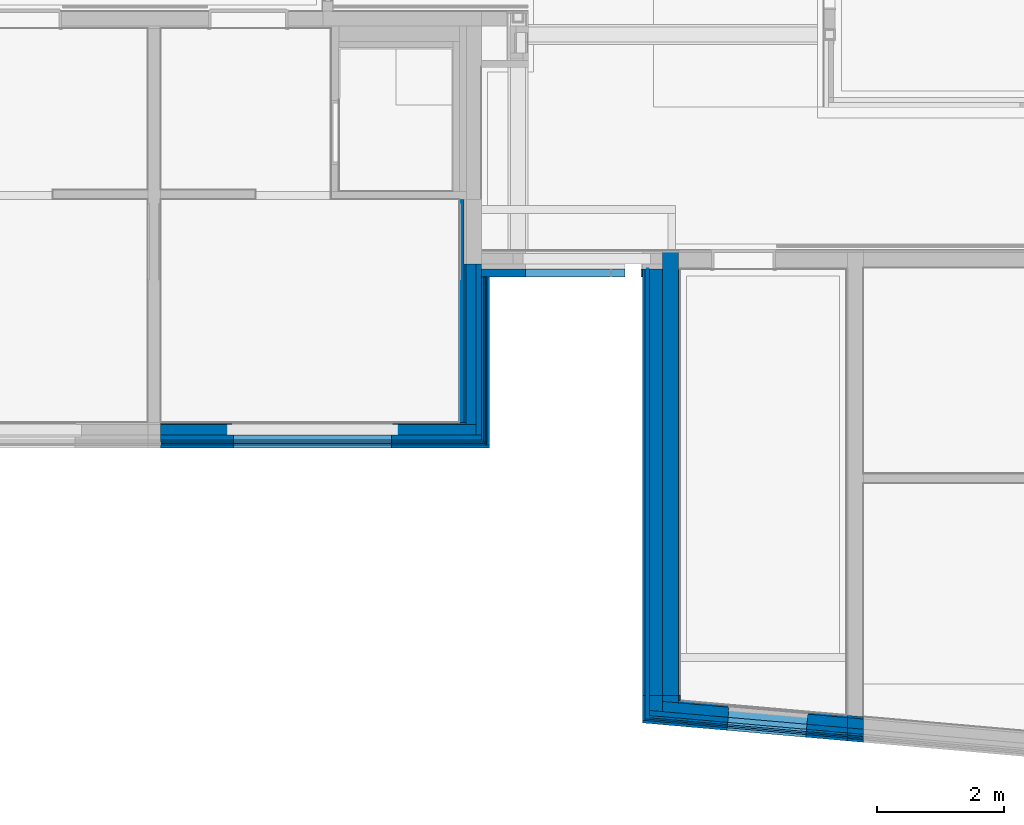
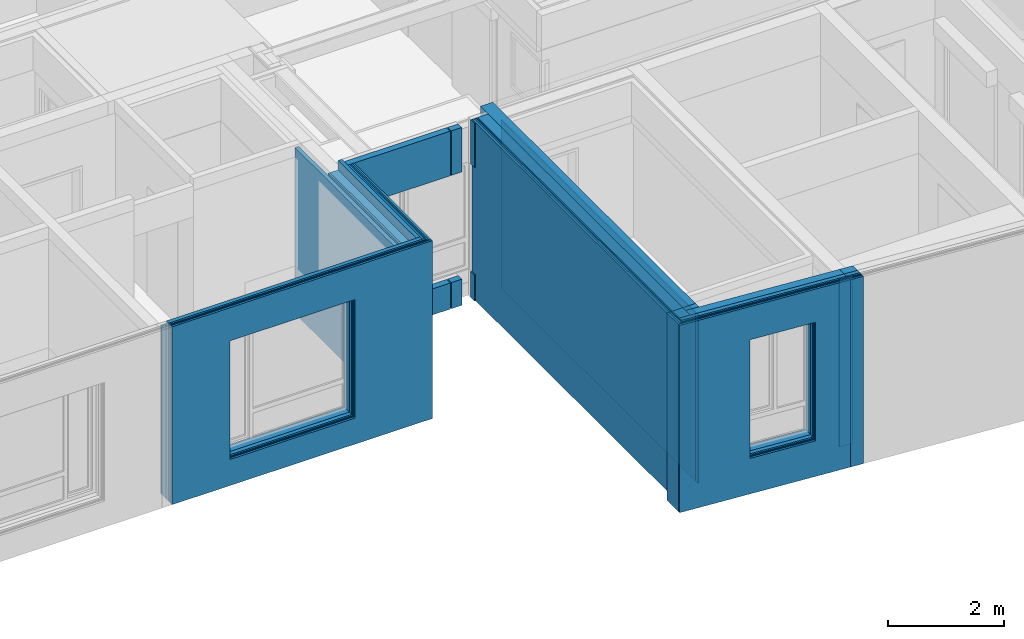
# One storey, part 19 of 222: 44 walls, 15 openings.
"""IFC4 building model written with IfcOpenShell, lengths in metres."""

from ifc_helpers import new_model, entity, si_unit, converted_unit, derived_unit, frame, frame_2d, origin, origin_with_axes, place, context, subcontext, project, spatial, polyline, rectangle, outline, extrude, clip, bounded_halfspace, material, element, save


model = new_model("IFC4")

# Units and contexts
model_context = context("Model", 3, precision=1e-05, world=origin())
body_context = subcontext(model_context, "Body", "Model", "MODEL_VIEW")
ifc_project = project(units=[si_unit("LENGTHUNIT", "METRE"), si_unit("AREAUNIT", "SQUARE_METRE"), si_unit("VOLUMEUNIT", "CUBIC_METRE"), si_unit("MASSUNIT", "GRAM", prefix="KILO"), converted_unit("PLANEANGLEUNIT", "DEGREE", entity("IfcPlaneAngleMeasure", 0.0174532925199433), si_unit("PLANEANGLEUNIT", "RADIAN"), dimensions=[0, 0, 0, 0, 0, 0, 0]), derived_unit("THERMALTRANSMITTANCEUNIT", [(si_unit("POWERUNIT", "WATT"), 1), (si_unit("THERMODYNAMICTEMPERATUREUNIT", "KELVIN"), -1), (si_unit("LENGTHUNIT", "METRE"), -2)]), derived_unit("VOLUMETRICFLOWRATEUNIT", [(si_unit("LENGTHUNIT", "METRE"), 3), (converted_unit("TIMEUNIT", "hour", entity("IfcTimeMeasure", 3600.0), si_unit("TIMEUNIT", "SECOND"), dimensions=[0, 0, 1, 0, 0, 0, 0]), -1), (si_unit("LENGTHUNIT", "METRE"), -1)])], contexts=[model_context])

# Site, building, storey
site_placement = place(None, origin())
site = spatial("IfcSite", under=ifc_project, at=site_placement, Name="Psychiatrie Neubau Wunstorf", CompositionType="ELEMENT")
building_placement = place(site_placement, origin())
building = spatial("IfcBuilding", under=site, at=building_placement, Name="Neubau H2 Stationsgebäude", CompositionType="ELEMENT")
storey_placement = place(building_placement, frame((0.0, 0.0, 3.6)))
storey = spatial("IfcBuildingStorey", under=building, at=storey_placement, Name="H2 Ebene +1", CompositionType="ELEMENT", Elevation=3.6)

# Walls
ifc_material_1 = material(Name="WA-LB")
wall_1_placement = place(storey_placement, frame((41.2, -6.81356006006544, 0.0), z_axis=(0.0, 0.0, 1.0), x_axis=(-0.996173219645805, 0.0874008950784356, 0.0)))
element("IfcWall", 1, at=wall_1_placement, inside=storey, material=ifc_material_1, Name="2x Gipsfaserplatte", context=body_context, shape_type="SweptSolid", body=[
    extrude(outline(polyline([(-0.245884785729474, -0.0578502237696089), (0.00507558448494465, -0.0578502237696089), (0.00191706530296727, -0.0218502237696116), (-0.249043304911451, -0.0218502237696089), (-0.245884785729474, -0.0578502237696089)])), frame((0.245884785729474, 0.0578502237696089, 0.0), z_axis=(0.0, 0.0, 1.0), x_axis=(1.0, 0.0, 0.0)), (0.0, 0.0, 1.0), 3.55),
])
ifc_material_2 = material(Name="WA-HD")
wall_2_placement = place(storey_placement, frame((41.2, -6.84969835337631, 0.0), z_axis=(0.0, 0.0, 1.0), x_axis=(-0.996173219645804, 0.0874008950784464, 0.0)))
element("IfcWall", 2, at=wall_2_placement, inside=storey, material=ifc_material_2, Name="Holzständer + Zwischendämmung", context=body_context, shape_type="SweptSolid", body=[
    extrude(outline(polyline([(-0.235005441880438, -0.181850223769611), (0.0159549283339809, -0.181850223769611), (0.00191706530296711, -0.0218502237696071), (-0.249043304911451, -0.0218502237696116), (-0.235005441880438, -0.181850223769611)])), frame((0.235005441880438, 0.181850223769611, 0.0), z_axis=(0.0, 0.0, 1.0), x_axis=(1.0, 0.0, 0.0)), (0.0, 0.0, 1.0), 3.75),
])
ifc_material_3 = material(Name="WA-DL")
wall_3_placement = place(storey_placement, frame((41.2, -7.01031299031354, -0.2), z_axis=(0.0, 0.0, 1.0), x_axis=(-0.996173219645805, 0.0874008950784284, 0.0)))
element("IfcWall", 3, at=wall_3_placement, inside=storey, material=ifc_material_3, Name="Staffel + Zwischendämmung", context=body_context, shape_type="SweptSolid", body=[
    extrude(outline(polyline([(-0.242024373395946, -0.101850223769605), (0.00893599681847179, -0.101850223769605), (0.00191706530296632, -0.0218502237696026), (-0.249043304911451, -0.0218502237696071), (-0.242024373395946, -0.101850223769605)])), frame((0.242024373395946, 0.101850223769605, 0.0), z_axis=(0.0, 0.0, 1.0), x_axis=(1.0, 0.0, 0.0)), (0.0, 0.0, 1.0), 3.95),
])
ifc_material_4 = material(Name="WA-LB")
wall_4_placement = place(storey_placement, frame((41.2, -7.09062030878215, -0.2), z_axis=(0.0, 0.0, 1.0), x_axis=(-0.996173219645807, 0.0874008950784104, 0.0)))
element("IfcWall", 4, at=wall_4_placement, inside=storey, material=ifc_material_4, context=body_context, shape_type="SweptSolid", body=[
    extrude(outline(polyline([(-0.245884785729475, -0.0578502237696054), (0.00507558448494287, -0.0578502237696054), (0.0019170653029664, -0.021850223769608), (-0.249043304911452, -0.0218502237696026), (-0.245884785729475, -0.0578502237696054)])), frame((0.245884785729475, 0.0578502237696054, 0.0), z_axis=(0.0, 0.0, 1.0), x_axis=(1.0, 0.0, 0.0)), (0.0, 0.0, 1.0), 3.95),
])
ifc_material_5 = material(Name="WA-KL")
wall_5_placement = place(storey_placement, frame((41.2, -7.12675860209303, -0.2), z_axis=(0.0, 0.0, 1.0), x_axis=(-0.996173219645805, 0.087400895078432, 0.0)))
element("IfcWall", 5, at=wall_5_placement, inside=storey, material=ifc_material_5, Name="Konterlattung", context=body_context, shape_type="SweptSolid", body=[
    extrude(outline(polyline([(-0.2469376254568, -0.0458502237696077), (0.00402274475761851, -0.0458502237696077), (0.00191706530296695, -0.0218502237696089), (-0.249043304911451, -0.021850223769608), (-0.2469376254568, -0.0458502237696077)])), frame((0.2469376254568, 0.0458502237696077, 0.0), z_axis=(0.0, 0.0, 1.0), x_axis=(1.0, 0.0, 0.0)), (0.0, 0.0, 1.0), 3.95),
])
ifc_material_6 = material(Name="WA-TL")
wall_6_placement = place(storey_placement, frame((41.2, -7.15085079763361, -0.2), z_axis=(0.0, 0.0, 1.0), x_axis=(-0.996173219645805, 0.0874008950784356, 0.0)))
element("IfcWall", 6, at=wall_6_placement, inside=storey, material=ifc_material_6, Name="Traglattung", context=body_context, shape_type="SweptSolid", body=[
    extrude(outline(polyline([(-0.246937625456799, -0.0458502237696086), (0.00402274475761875, -0.0458502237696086), (0.00191706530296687, -0.0218502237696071), (-0.249043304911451, -0.0218502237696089), (-0.246937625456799, -0.0458502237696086)])), frame((0.246937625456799, 0.0458502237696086, 0.0), z_axis=(0.0, 0.0, 1.0), x_axis=(1.0, 0.0, 0.0)), (0.0, 0.0, 1.0), 3.95),
])
ifc_material_7 = material(Name="WA-HS")
wall_7_placement = place(storey_placement, frame((41.2, -7.1749429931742, -0.2), z_axis=(0.0, 0.0, 1.0), x_axis=(-0.996173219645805, 0.0874008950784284, 0.0)))
element("IfcWall", 7, at=wall_7_placement, inside=storey, material=ifc_material_7, Name="Holzschindel", context=body_context, shape_type="SweptSolid", body=[
    extrude(outline(polyline([(-0.245358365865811, -0.0638502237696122), (0.00560200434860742, -0.0638502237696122), (0.00191706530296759, -0.0218502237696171), (-0.249043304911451, -0.0218502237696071), (-0.245358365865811, -0.0638502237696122)])), frame((0.245358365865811, 0.0638502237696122, 0.0), z_axis=(0.0, 0.0, 1.0), x_axis=(1.0, 0.0, 0.0)), (0.0, 0.0, 1.0), 3.95),
])

# Wall, opening
ifc_material_8 = material(Name="WA-LB")
wall_8_placement = place(storey_placement, frame((34.925, -2.16399999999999, 0.0), z_axis=(0.0, 0.0, 1.0), x_axis=(-1.0, 9.42481556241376e-17, 0.0)))
wall_8 = element("IfcWall", 8, at=wall_8_placement, inside=storey, material=ifc_material_8, context=body_context, shape_type="SweptSolid", body=[
    extrude(rectangle(XDim=4.825, YDim=0.036, at=frame_2d((2.4125, 0.018), x_axis=(1.0, 0.0))), origin_with_axes(), (0.0, 0.0, 1.0), 3.55),
])
opening_1_placement = place(wall_8_placement, frame((1.175, 0.0, 0.55), z_axis=(0.0, 1.0, 0.0), x_axis=(0.0, 0.0, 1.0)))
element("IfcOpeningElement", 9, at=opening_1_placement, cuts=wall_8, Name="Fensteröffnung", ObjectType="Opening", context=body_context, shape_type="SweptSolid", body=[
    extrude(outline(polyline([(2.5, 2.5), (2.5, 0.0), (0.0, 0.0), (0.0, 2.5), (2.5, 2.5)])), origin_with_axes(), (0.0, 0.0, 1.0), 0.036),
])

ifc_material_9 = material(Name="WA-HD")
wall_9_placement = place(storey_placement, frame((35.085, -2.19999999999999, 0.0), z_axis=(0.0, 0.0, 1.0), x_axis=(-1.0, 9.12231395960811e-17, 0.0)))
wall_9 = element("IfcWall", 10, at=wall_9_placement, inside=storey, material=ifc_material_9, context=body_context, shape_type="Clipping", body=[
    clip(extrude(rectangle(XDim=4.985, YDim=0.16, at=frame_2d((2.4925, 0.08), x_axis=(1.0, 0.0))), origin_with_axes(), (0.0, 0.0, 1.0), 3.55), bounded_halfspace(frame((2.58500001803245, 0.0799999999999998, 0.26), z_axis=(0.0, 0.0, 1.0), x_axis=(1.0, 9.12231395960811e-17, 0.0)), True, origin_with_axes(), polyline([(1.235, 0.0), (3.9350000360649, 0.0), (3.9350000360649, 0.16), (1.235, 0.16), (1.235, 0.0)]))),
])
opening_2_placement = place(wall_9_placement, frame((1.335, 0.0, 0.55), z_axis=(0.0, 1.0, 0.0), x_axis=(0.0, 0.0, 1.0)))
element("IfcOpeningElement", 11, at=opening_2_placement, cuts=wall_9, Name="Fensteröffnung", ObjectType="Opening", context=body_context, shape_type="SweptSolid", body=[
    extrude(outline(polyline([(2.5, 2.5), (2.5, 0.0), (0.0, 0.0), (0.0, 2.5), (2.5, 2.5)])), origin_with_axes(), (0.0, 0.0, 1.0), 0.16),
])

ifc_material_10 = material(Name="WA-DL")
wall_10_placement = place(storey_placement, frame((35.165, -2.35999999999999, 0.0), z_axis=(0.0, 0.0, 1.0), x_axis=(-1.0, 8.97823002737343e-17, 0.0)))
wall_10 = element("IfcWall", 12, at=wall_10_placement, inside=storey, material=ifc_material_10, context=body_context, shape_type="SweptSolid", body=[
    extrude(rectangle(XDim=5.065, YDim=0.08, at=frame_2d((2.5325, 0.04), x_axis=(1.0, 0.0))), origin_with_axes(), (0.0, 0.0, 1.0), 3.75),
])
opening_3_placement = place(wall_10_placement, frame((1.415, 0.0, 0.55), z_axis=(0.0, 1.0, 0.0), x_axis=(0.0, 0.0, 1.0)))
element("IfcOpeningElement", 13, at=opening_3_placement, cuts=wall_10, Name="Fensteröffnung", ObjectType="Opening", context=body_context, shape_type="SweptSolid", body=[
    extrude(outline(polyline([(2.5, 2.5), (2.5, 0.0), (0.0, 0.0), (0.0, 2.5), (2.5, 2.5)])), origin_with_axes(), (0.0, 0.0, 1.0), 0.08),
])

ifc_material_11 = material(Name="WA-LB")
wall_11_placement = place(storey_placement, frame((35.201, -2.43999999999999, 0.0), z_axis=(0.0, 0.0, 1.0), x_axis=(-1.0, 8.91486671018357e-17, 0.0)))
wall_11 = element("IfcWall", 14, at=wall_11_placement, inside=storey, material=ifc_material_11, context=body_context, shape_type="SweptSolid", body=[
    extrude(rectangle(XDim=5.101, YDim=0.036, at=frame_2d((2.5505, 0.018), x_axis=(1.0, 0.0))), origin_with_axes(), (0.0, 0.0, 1.0), 3.75),
])
opening_4_placement = place(wall_11_placement, frame((1.451, 0.0, 0.55), z_axis=(0.0, 1.0, 0.0), x_axis=(0.0, 0.0, 1.0)))
element("IfcOpeningElement", 15, at=opening_4_placement, cuts=wall_11, Name="Fensteröffnung", ObjectType="Opening", context=body_context, shape_type="SweptSolid", body=[
    extrude(outline(polyline([(2.5, 2.5), (2.5, 0.0), (0.0, 0.0), (0.0, 2.5), (2.5, 2.5)])), origin_with_axes(), (0.0, 0.0, 1.0), 0.036),
])

ifc_material_12 = material(Name="WA-KL")
wall_12_placement = place(storey_placement, frame((35.225, -2.47599999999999, 0.0), z_axis=(0.0, 0.0, 1.0), x_axis=(-1.0, 8.87311904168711e-17, 0.0)))
wall_12 = element("IfcWall", 16, at=wall_12_placement, inside=storey, material=ifc_material_12, context=body_context, shape_type="SweptSolid", body=[
    extrude(rectangle(XDim=5.125, YDim=0.024, at=frame_2d((2.5625, 0.012), x_axis=(1.0, 0.0))), origin_with_axes(), (0.0, 0.0, 1.0), 3.75),
])
opening_5_placement = place(wall_12_placement, frame((1.475, 0.0, 0.55), z_axis=(0.0, 1.0, 0.0), x_axis=(0.0, 0.0, 1.0)))
element("IfcOpeningElement", 17, at=opening_5_placement, cuts=wall_12, Name="Fensteröffnung", ObjectType="Opening", context=body_context, shape_type="SweptSolid", body=[
    extrude(outline(polyline([(2.5, 2.5), (2.5, 0.0), (0.0, 0.0), (0.0, 2.5), (2.5, 2.5)])), origin_with_axes(), (0.0, 0.0, 1.0), 0.024),
])

ifc_material_13 = material(Name="WA-TL")
wall_13_placement = place(storey_placement, frame((35.249, -2.49999999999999, 0.0), z_axis=(0.0, 0.0, 1.0), x_axis=(-1.0, 8.83176055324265e-17, 0.0)))
wall_13 = element("IfcWall", 18, at=wall_13_placement, inside=storey, material=ifc_material_13, context=body_context, shape_type="SweptSolid", body=[
    extrude(rectangle(XDim=5.149, YDim=0.024, at=frame_2d((2.5745, 0.012), x_axis=(1.0, 0.0))), origin_with_axes(), (0.0, 0.0, 1.0), 3.75),
])
opening_6_placement = place(wall_13_placement, frame((1.499, 0.0, 0.55), z_axis=(0.0, 1.0, 0.0), x_axis=(0.0, 0.0, 1.0)))
element("IfcOpeningElement", 19, at=opening_6_placement, cuts=wall_13, Name="Fensteröffnung", ObjectType="Opening", context=body_context, shape_type="SweptSolid", body=[
    extrude(outline(polyline([(2.5, 2.5), (2.5, 0.0), (0.0, 0.0), (0.0, 2.5), (2.5, 2.5)])), origin_with_axes(), (0.0, 0.0, 1.0), 0.024),
])

ifc_material_14 = material(Name="WA-HS")
wall_14_placement = place(storey_placement, frame((35.291, -2.52399999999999, 0.0), z_axis=(0.0, 0.0, 1.0), x_axis=(-1.0, 8.76030342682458e-17, 0.0)))
wall_14 = element("IfcWall", 20, at=wall_14_placement, inside=storey, material=ifc_material_14, context=body_context, shape_type="SweptSolid", body=[
    extrude(rectangle(XDim=5.191, YDim=0.042, at=frame_2d((2.5955, 0.021), x_axis=(1.0, 0.0))), origin_with_axes(), (0.0, 0.0, 1.0), 3.75),
])
opening_7_placement = place(wall_14_placement, frame((1.541, 0.0, 0.55), z_axis=(0.0, 1.0, 0.0), x_axis=(0.0, 0.0, 1.0)))
element("IfcOpeningElement", 21, at=opening_7_placement, cuts=wall_14, Name="Fensteröffnung", ObjectType="Opening", context=body_context, shape_type="SweptSolid", body=[
    extrude(outline(polyline([(2.5, 2.5), (2.5, 0.0), (0.0, 0.0), (0.0, 2.5), (2.5, 2.5)])), origin_with_axes(), (0.0, 0.0, 1.0), 0.042),
])

# Walls
ifc_material_15 = material(Name="WA-LB")
wall_15_placement = place(storey_placement, frame((34.889, 0.340002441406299, 0.0), z_axis=(0.0, 0.0, 1.0), x_axis=(0.0, -1.0, 0.0)))
element("IfcWall", 22, at=wall_15_placement, inside=storey, material=ifc_material_15, context=body_context, shape_type="SweptSolid", body=[
    extrude(rectangle(XDim=2.50400244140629, YDim=0.036, at=frame_2d((1.25200122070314, 0.018), x_axis=(1.0, 0.0))), origin_with_axes(), (0.0, 0.0, 1.0), 3.55),
])
ifc_material_16 = material(Name="WA-HD")
wall_16_placement = place(storey_placement, frame((34.925, 0.340002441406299, 0.0), z_axis=(0.0, 0.0, 1.0), x_axis=(0.0, -1.0, 0.0)))
element("IfcWall", 23, at=wall_16_placement, inside=storey, material=ifc_material_16, context=body_context, shape_type="SweptSolid", body=[
    extrude(rectangle(XDim=2.54000244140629, YDim=0.16, at=frame_2d((1.27000122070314, 0.08), x_axis=(1.0, 0.0))), origin_with_axes(), (0.0, 0.0, 1.0), 3.55),
])
ifc_material_17 = material(Name="WA-DL")
wall_17_placement = place(storey_placement, frame((35.085, 0.340002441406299, 0.0), z_axis=(0.0, 0.0, 1.0), x_axis=(0.0, -1.0, 0.0)))
element("IfcWall", 24, at=wall_17_placement, inside=storey, material=ifc_material_17, context=body_context, shape_type="SweptSolid", body=[
    extrude(outline(polyline([(-2.70000244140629, 0.0), (0.0, 0.0), (0.0, 0.08), (-2.62000244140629, 0.08), (-2.62000244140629, 0.0795), (-2.70000244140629, 0.0795), (-2.70000244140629, 0.0)])), frame((2.70000244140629, 0.0, 0.0), z_axis=(0.0, 0.0, 1.0), x_axis=(1.0, 0.0, 0.0)), (0.0, 0.0, 1.0), 3.75),
])
ifc_material_18 = material(Name="WA-LB")
wall_18_placement = place(storey_placement, frame((35.165, 0.134002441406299, 0.0), z_axis=(0.0, 0.0, 1.0), x_axis=(0.0, -1.0, 0.0)))
element("IfcWall", 25, at=wall_18_placement, inside=storey, material=ifc_material_18, context=body_context, shape_type="SweptSolid", body=[
    extrude(rectangle(XDim=2.57400244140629, YDim=0.036, at=frame_2d((1.28700122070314, 0.018), x_axis=(1.0, 0.0))), origin_with_axes(), (0.0, 0.0, 1.0), 3.75),
])
ifc_material_19 = material(Name="WA-KL")
wall_19_placement = place(storey_placement, frame((35.201, 0.134002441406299, 0.0), z_axis=(0.0, 0.0, 1.0), x_axis=(0.0, -1.0, 0.0)))
element("IfcWall", 26, at=wall_19_placement, inside=storey, material=ifc_material_19, context=body_context, shape_type="SweptSolid", body=[
    extrude(rectangle(XDim=2.61000244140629, YDim=0.024, at=frame_2d((1.30500122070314, 0.012), x_axis=(1.0, 0.0))), origin_with_axes(), (0.0, 0.0, 1.0), 3.75),
])
ifc_material_20 = material(Name="WA-TL")
wall_20_placement = place(storey_placement, frame((35.225, 0.134002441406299, 0.0), z_axis=(0.0, 0.0, 1.0), x_axis=(0.0, -1.0, 0.0)))
element("IfcWall", 27, at=wall_20_placement, inside=storey, material=ifc_material_20, context=body_context, shape_type="SweptSolid", body=[
    extrude(rectangle(XDim=2.63400244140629, YDim=0.024, at=frame_2d((1.31700122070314, 0.012), x_axis=(1.0, 0.0))), origin_with_axes(), (0.0, 0.0, 1.0), 3.75),
])
ifc_material_21 = material(Name="WA-HS")
wall_21_placement = place(storey_placement, frame((35.249, 0.134002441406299, 0.0), z_axis=(0.0, 0.0, 1.0), x_axis=(0.0, -1.0, 0.0)))
element("IfcWall", 28, at=wall_21_placement, inside=storey, material=ifc_material_21, context=body_context, shape_type="SweptSolid", body=[
    extrude(rectangle(XDim=2.65800244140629, YDim=0.042, at=frame_2d((1.32900122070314, 0.021), x_axis=(1.0, 0.0))), origin_with_axes(), (0.0, 0.0, 1.0), 3.75),
])

# Wall, opening
ifc_material_22 = material(Name="WA-LB")
wall_22_placement = place(storey_placement, frame((37.7090161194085, 0.260002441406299, 0.0), z_axis=(0.0, 0.0, 1.0), x_axis=(-1.0, 3.3515954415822e-16, 0.0)))
wall_22 = element("IfcWall", 29, at=wall_22_placement, inside=storey, material=ifc_material_22, context=body_context, shape_type="SweptSolid", body=[
    extrude(rectangle(XDim=2.03901610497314, YDim=0.126, at=frame_2d((1.01950805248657, 0.063), x_axis=(1.0, 6.25145599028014e-19))), frame((0.505000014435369, 0.0, 0.0), z_axis=(0.0, 0.0, 1.0), x_axis=(1.0, 0.0, 0.0)), (0.0, 0.0, 1.0), 3.75),
    extrude(rectangle(XDim=0.21, YDim=0.126, at=frame_2d((0.105, 0.063), x_axis=(1.0, 6.44765972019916e-17))), frame((0.274000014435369, 0.0, 0.0), z_axis=(0.0, 0.0, 1.0), x_axis=(1.0, 0.0, 0.0)), (0.0, 0.0, 1.0), 3.75),
    extrude(rectangle(XDim=0.0240000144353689, YDim=0.126, at=frame_2d((-0.0120000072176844, -0.063), x_axis=(-1.0, -3.3515954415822e-16))), frame((0.0240000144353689, 0.126, 0.0), z_axis=(0.0, 0.0, 1.0), x_axis=(1.0, 0.0, 0.0)), (0.0, 0.0, 1.0), 3.75),
])
opening_8_placement = place(wall_22_placement, frame((1.8480211, 0.126, 0.55), z_axis=(0.0, -1.0, 0.0), x_axis=(0.0, 0.0, 1.0)))
element("IfcOpeningElement", 30, at=opening_8_placement, cuts=wall_22, Name="Fensteröffnung", ObjectType="Opening", context=body_context, shape_type="SweptSolid", body=[
    extrude(outline(polyline([(2.26, 1.8480211), (2.26, 0.0), (0.0, 0.0), (0.0, 1.8480211), (2.26, 1.8480211)])), origin_with_axes(), (0.0, 0.0, 1.0), 0.126),
])

ifc_material_23 = material(Name="WA-LB")
wall_23_placement = place(storey_placement, frame((40.95, -6.79162615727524, 0.0), z_axis=(0.0, 0.0, 1.0), x_axis=(-0.996173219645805, 0.087400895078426, 0.0)))
wall_23 = element("IfcWall", 31, at=wall_23_placement, inside=storey, material=ifc_material_23, context=body_context, shape_type="SweptSolid", body=[
    extrude(outline(polyline([(-2.65662397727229, -0.269360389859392), (0.0236327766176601, -0.269360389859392), (0.0204742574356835, -0.233360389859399), (-2.65978249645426, -0.233360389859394), (-2.65662397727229, -0.269360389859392)])), frame((2.65662397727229, 0.269360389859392, 0.0), z_axis=(0.0, 0.0, 1.0), x_axis=(1.0, 0.0, 0.0)), (0.0, 0.0, 1.0), 3.55),
])
opening_9_placement = place(wall_23_placement, frame((1.877265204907, 0.0359999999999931, 0.55), z_axis=(7.57912251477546e-14, -1.0, 0.0), x_axis=(0.0, 0.0, 1.0)))
element("IfcOpeningElement", 32, at=opening_9_placement, cuts=wall_23, Name="Fensteröffnung", ObjectType="Opening", context=body_context, shape_type="SweptSolid", body=[
    extrude(outline(polyline([(2.5, 1.24999999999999), (2.5, 0.0), (0.0, 0.0), (0.0, 1.24999999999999), (2.5, 1.24999999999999)])), origin_with_axes(), (0.0, 0.0, 1.0), 0.035999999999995),
])

ifc_material_24 = material(Name="WA-HD")
wall_24_placement = place(storey_placement, frame((40.95, -6.82776445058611, 0.0), z_axis=(0.0, 0.0, 1.0), x_axis=(-0.996173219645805, 0.0874008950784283, 0.0)))
wall_24 = element("IfcWall", 33, at=wall_24_placement, inside=storey, material=ifc_material_24, context=body_context, shape_type="SweptSolid", body=[
    extrude(outline(polyline([(-2.89478793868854, -0.415210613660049), (0.0364291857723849, -0.415210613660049), (0.022391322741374, -0.255210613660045), (-2.90882580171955, -0.255210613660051), (-2.89478793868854, -0.415210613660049)])), frame((2.89478793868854, 0.415210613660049, 0.0), z_axis=(0.0, 0.0, 1.0), x_axis=(1.0, 0.0, 0.0)), (0.0, 0.0, 1.0), 3.75),
])
opening_10_placement = place(wall_24_placement, frame((1.88042372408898, 0.160000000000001, 0.55), z_axis=(1.13686837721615e-14, -1.0, 0.0), x_axis=(0.0, 0.0, 1.0)))
element("IfcOpeningElement", 34, at=opening_10_placement, cuts=wall_24, Name="Fensteröffnung", ObjectType="Opening", context=body_context, shape_type="SweptSolid", body=[
    extrude(outline(polyline([(2.5, 1.25000000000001), (2.5, 0.0), (0.0, 0.0), (0.0, 1.25000000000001), (2.5, 1.25000000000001)])), origin_with_axes(), (0.0, 0.0, 1.0), 0.160000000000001),
])

ifc_material_25 = material(Name="WA-DL")
wall_25_placement = place(storey_placement, frame((40.95, -6.98837908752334, -0.2), z_axis=(0.0, 0.0, 1.0), x_axis=(-0.996173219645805, 0.0874008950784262, 0.0)))
wall_25 = element("IfcWall", 35, at=wall_25_placement, inside=storey, material=ifc_material_25, context=body_context, shape_type="SweptSolid", body=[
    extrude(outline(polyline([(-3.11100324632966, -0.353564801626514), (0.0310205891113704, -0.353564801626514), (0.0240016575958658, -0.273564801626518), (-3.11802217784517, -0.273564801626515), (-3.11100324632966, -0.353564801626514)])), frame((3.11100324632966, 0.353564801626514, 0.0), z_axis=(0.0, 0.0, 1.0), x_axis=(1.0, 0.0, 0.0)), (0.0, 0.0, 1.0), 3.95),
])
opening_11_placement = place(wall_25_placement, frame((1.89446158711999, 0.0799999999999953, 0.75), z_axis=(-4.2632564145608e-14, -1.0, 0.0), x_axis=(0.0, 0.0, 1.0)))
element("IfcOpeningElement", 36, at=opening_11_placement, cuts=wall_25, Name="Fensteröffnung", ObjectType="Opening", context=body_context, shape_type="SweptSolid", body=[
    extrude(outline(polyline([(2.5, 1.25), (2.5, 0.0), (0.0, 0.0), (0.0, 1.25), (2.5, 1.25)])), origin_with_axes(), (0.0, 0.0, 1.0), 0.0799999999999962),
])

ifc_material_26 = material(Name="WA-LB")
wall_26_placement = place(storey_placement, frame((40.95, -7.06868640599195, -0.2), z_axis=(0.0, 0.0, 1.0), x_axis=(-0.996173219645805, 0.087400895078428, 0.0)))
wall_26 = element("IfcWall", 37, at=wall_26_placement, inside=storey, material=ifc_material_26, context=body_context, shape_type="SweptSolid", body=[
    extrude(outline(polyline([(-3.13578329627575, -0.311400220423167), (0.0273212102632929, -0.311400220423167), (0.0241626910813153, -0.275400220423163), (-3.13894181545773, -0.275400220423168), (-3.13578329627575, -0.311400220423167)])), frame((3.13578329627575, 0.311400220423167, 0.0), z_axis=(0.0, 0.0, 1.0), x_axis=(1.0, 0.0, 0.0)), (0.0, 0.0, 1.0), 3.95),
])
opening_12_placement = place(wall_26_placement, frame((1.9014805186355, 0.0360000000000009, 0.75), z_axis=(8.84230960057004e-14, -1.0, 0.0), x_axis=(0.0, 0.0, 1.0)))
element("IfcOpeningElement", 38, at=opening_12_placement, cuts=wall_26, Name="Fensteröffnung", ObjectType="Opening", context=body_context, shape_type="SweptSolid", body=[
    extrude(outline(polyline([(2.5, 1.25000000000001), (2.5, 0.0), (0.0, 0.0), (0.0, 1.25000000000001), (2.5, 1.25000000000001)])), origin_with_axes(), (0.0, 0.0, 1.0), 0.0360000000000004),
])

ifc_material_27 = material(Name="WA-KL")
wall_27_placement = place(storey_placement, frame((40.95, -7.10482469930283, -0.2), z_axis=(0.0, 0.0, 1.0), x_axis=(-0.996173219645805, 0.0874008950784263, 0.0)))
wall_27 = element("IfcWall", 39, at=wall_27_placement, inside=storey, material=ifc_material_27, context=body_context, shape_type="SweptSolid", body=[
    extrude(outline(polyline([(-3.15177873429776, -0.300711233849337), (0.0263833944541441, -0.300711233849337), (0.0242777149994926, -0.276711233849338), (-3.15388441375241, -0.276711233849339), (-3.15177873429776, -0.300711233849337)])), frame((3.15177873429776, 0.300711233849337, 0.0), z_axis=(0.0, 0.0, 1.0), x_axis=(1.0, 0.0, 0.0)), (0.0, 0.0, 1.0), 3.95),
])
opening_13_placement = place(wall_27_placement, frame((1.90463903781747, 0.0239999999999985, 0.75), z_axis=(7.57912251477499e-14, -1.0, 0.0), x_axis=(0.0, 0.0, 1.0)))
element("IfcOpeningElement", 40, at=opening_13_placement, cuts=wall_27, Name="Fensteröffnung", ObjectType="Opening", context=body_context, shape_type="SweptSolid", body=[
    extrude(outline(polyline([(2.5, 1.25), (2.5, 0.0), (0.0, 0.0), (0.0, 1.25), (2.5, 1.25)])), origin_with_axes(), (0.0, 0.0, 1.0), 0.0239999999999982),
])

ifc_material_28 = material(Name="WA-TL")
wall_28_placement = place(storey_placement, frame((40.95, -7.12891689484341, -0.2), z_axis=(0.0, 0.0, 1.0), x_axis=(-0.996173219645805, 0.0874008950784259, 0.0)))
wall_28 = element("IfcWall", 41, at=wall_28_placement, inside=storey, material=ifc_material_28, context=body_context, shape_type="SweptSolid", body=[
    extrude(outline(polyline([(-3.18463640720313, -0.303594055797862), (0.0266363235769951, -0.303594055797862), (0.0245306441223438, -0.279594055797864), (-3.18674208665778, -0.279594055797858), (-3.18463640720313, -0.303594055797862)])), frame((3.18463640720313, 0.303594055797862, 0.0), z_axis=(0.0, 0.0, 1.0), x_axis=(1.0, 0.0, 0.0)), (0.0, 0.0, 1.0), 3.95),
])
opening_14_placement = place(wall_28_placement, frame((1.90674471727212, 0.0240000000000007, 0.75), z_axis=(8.52651282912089e-14, -1.0, 0.0), x_axis=(0.0, 0.0, 1.0)))
element("IfcOpeningElement", 42, at=opening_14_placement, cuts=wall_28, Name="Fensteröffnung", ObjectType="Opening", context=body_context, shape_type="SweptSolid", body=[
    extrude(outline(polyline([(2.5, 1.25), (2.5, 0.0), (0.0, 0.0), (0.0, 1.25), (2.5, 1.25)])), origin_with_axes(), (0.0, 0.0, 1.0), 0.0240000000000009),
])

ifc_material_29 = material(Name="WA-HS")
wall_29_placement = place(storey_placement, frame((40.95, -7.15300909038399, -0.2), z_axis=(0.0, 0.0, 1.0), x_axis=(-0.996173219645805, 0.0874008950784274, 0.0)))
wall_29 = element("IfcWall", 43, at=wall_29_placement, inside=storey, material=ifc_material_29, context=body_context, shape_type="SweptSolid", body=[
    extrude(outline(polyline([(-3.22489642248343, -0.325264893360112), (0.0285376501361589, -0.325264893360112), (0.0248527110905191, -0.283264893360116), (-3.22858136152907, -0.283264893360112), (-3.22489642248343, -0.325264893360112)])), frame((3.22489642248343, 0.325264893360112, 0.0), z_axis=(0.0, 0.0, 1.0), x_axis=(1.0, 0.0, 0.0)), (0.0, 0.0, 1.0), 3.95),
])
opening_15_placement = place(wall_29_placement, frame((1.90885039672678, 0.0420000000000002, 0.75), z_axis=(0.0, -1.0, 0.0), x_axis=(0.0, 0.0, 1.0)))
element("IfcOpeningElement", 44, at=opening_15_placement, cuts=wall_29, Name="Fensteröffnung", ObjectType="Opening", context=body_context, shape_type="SweptSolid", body=[
    extrude(outline(polyline([(2.5, 1.25), (2.5, 0.0), (0.0, 0.0), (0.0, 1.25), (2.5, 1.25)])), origin_with_axes(), (0.0, 0.0, 1.0), 0.042),
])

# Walls
ifc_material_30 = material(Name="WA-STB")
wall_30_placement = place(storey_placement, frame((38.2799999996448, -6.59350761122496, 0.0), z_axis=(0.0, 0.0, 1.0), x_axis=(0.0, 1.0, 0.0)))
element("IfcWall", 45, at=wall_30_placement, inside=storey, material=ifc_material_30, context=body_context, shape_type="SweptSolid", body=[
    extrude(outline(polyline([(0.0, -0.25), (0.119507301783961, -0.25), (0.119507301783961, 0.0), (0.0219341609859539, 0.0), (0.0, -0.25)])), frame((0.0, 0.25, 0.0), z_axis=(0.0, 0.0, 1.0), x_axis=(1.0, 0.0, 0.0)), (0.0, 0.0, 1.0), 3.75),
])
ifc_material_31 = material(Name="WA-DL")
wall_31_placement = place(storey_placement, frame((38.0299999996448, -6.73218808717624, -0.2), z_axis=(0.0, 0.0, 1.0), x_axis=(0.0, 1.0, 0.0)))
element("IfcWall", 46, at=wall_31_placement, inside=storey, material=ifc_material_31, context=body_context, shape_type="SweptSolid", body=[
    extrude(outline(polyline([(0.0, -0.21), (0.258187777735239, -0.21), (0.258187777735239, 0.0), (0.018424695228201, 0.0), (0.0, -0.21)])), frame((0.0, 0.21, 0.0), z_axis=(0.0, 0.0, 1.0), x_axis=(1.0, 0.0, 0.0)), (0.0, 0.0, 1.0), 3.95),
])
ifc_material_32 = material(Name="WA-LB")
wall_32_placement = place(storey_placement, frame((37.8199999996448, -6.79407071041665, -0.2), z_axis=(0.0, 0.0, 1.0), x_axis=(0.0, 1.0, 0.0)))
element("IfcWall", 47, at=wall_32_placement, inside=storey, material=ifc_material_32, context=body_context, shape_type="SweptSolid", body=[
    extrude(outline(polyline([(0.0, -0.021), (0.320070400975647, -0.021), (0.320070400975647, 0.0), (0.00184246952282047, 0.0), (0.0, -0.021)])), frame((0.0, 0.021, 0.0), z_axis=(0.0, 0.0, 1.0), x_axis=(1.0, 0.0, 0.0)), (0.0, 0.0, 1.0), 3.95),
])
ifc_material_33 = material(Name="WA-KL")
wall_33_placement = place(storey_placement, frame((37.7989999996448, -6.82836653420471, -0.2), z_axis=(0.0, 0.0, 1.0), x_axis=(0.0, 1.0, 0.0)))
element("IfcWall", 48, at=wall_33_placement, inside=storey, material=ifc_material_33, context=body_context, shape_type="SweptSolid", body=[
    extrude(outline(polyline([(0.0, -0.015), (0.354366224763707, -0.015), (0.354366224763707, 0.0), (0.00131604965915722, 0.0), (0.0, -0.015)])), frame((0.0, 0.015, 0.0), z_axis=(0.0, 0.0, 1.0), x_axis=(1.0, 0.0, 0.0)), (0.0, 0.0, 1.0), 3.95),
])
ifc_material_34 = material(Name="WA-TL")
wall_34_placement = place(storey_placement, frame((37.7839999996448, -6.85114268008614, -0.2), z_axis=(0.0, 0.0, 1.0), x_axis=(0.0, 1.0, 0.0)))
element("IfcWall", 49, at=wall_34_placement, inside=storey, material=ifc_material_34, context=body_context, shape_type="SweptSolid", body=[
    extrude(outline(polyline([(0.0, -0.0329838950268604), (0.377142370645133, -0.0329838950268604), (0.377142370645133, 0.0), (0.00289389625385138, 0.0), (0.0, -0.0329838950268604)])), frame((0.0, 0.0329838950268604, 0.0), z_axis=(0.0, 0.0, 1.0), x_axis=(1.0, 0.0, 0.0)), (0.0, 0.0, 1.0), 3.95),
])
ifc_material_35 = material(Name="WA-HS")
wall_35_placement = place(storey_placement, frame((37.751016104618, -6.87234097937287, -0.2), z_axis=(0.0, 0.0, 1.0), x_axis=(0.0, 1.0, 0.0)))
element("IfcWall", 50, at=wall_35_placement, inside=storey, material=ifc_material_35, Name="Keramikschindel", context=body_context, shape_type="SweptSolid", body=[
    extrude(outline(polyline([(0.0, -0.0419999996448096), (0.398340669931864, -0.0419999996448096), (0.398340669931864, 0.0), (0.0036849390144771, 0.0), (0.0, -0.0419999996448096)])), frame((0.0, 0.0419999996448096, 0.0), z_axis=(0.0, 0.0, 1.0), x_axis=(1.0, 0.0, 0.0)), (0.0, 0.0, 1.0), 3.95),
])
ifc_material_36 = material(Name="WI-LB")
wall_36_placement = place(storey_placement, frame((38.304, -6.474000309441, 0.0), z_axis=(0.0, 0.0, 1.0), x_axis=(0.0, 1.0, 0.0)))
element("IfcWall", 51, at=wall_36_placement, inside=storey, material=ifc_material_36, context=body_context, shape_type="SweptSolid", body=[
    extrude(rectangle(XDim=6.725000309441, YDim=0.024, at=frame_2d((3.3625001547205, 0.012), x_axis=(1.0, 0.0))), origin_with_axes(), (0.0, 0.0, 1.0), 3.55),
])
ifc_material_37 = material(Name="WA-STB")
wall_37_placement = place(storey_placement, frame((38.28, -6.474000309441, 0.0), z_axis=(0.0, 0.0, 1.0), x_axis=(0.0, 1.0, 0.0)))
element("IfcWall", 52, at=wall_37_placement, inside=storey, material=ifc_material_37, context=body_context, shape_type="SweptSolid", body=[
    extrude(rectangle(XDim=6.999000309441, YDim=0.25, at=frame_2d((3.4995001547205, 0.125), x_axis=(1.0, 0.0))), origin_with_axes(), (0.0, 0.0, 1.0), 3.75),
])
ifc_material_38 = material(Name="WA-DL")
wall_38_placement = place(storey_placement, frame((38.03, -6.474000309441, 0.0), z_axis=(0.0, 0.0, 1.0), x_axis=(0.0, 1.0, 0.0)))
element("IfcWall", 53, at=wall_38_placement, inside=storey, material=ifc_material_38, context=body_context, shape_type="SweptSolid", body=[
    extrude(rectangle(XDim=6.7340027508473, YDim=0.21, at=frame_2d((3.36700137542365, 0.105), x_axis=(1.0, 0.0))), origin_with_axes(), (0.0, 0.0, 1.0), 3.75),
])
ifc_material_39 = material(Name="WA-LB")
wall_39_placement = place(storey_placement, frame((37.82, -6.474000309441, 0.0), z_axis=(0.0, 0.0, 1.0), x_axis=(0.0, 1.0, 0.0)))
element("IfcWall", 54, at=wall_39_placement, inside=storey, material=ifc_material_39, context=body_context, shape_type="SweptSolid", body=[
    extrude(rectangle(XDim=6.7340027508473, YDim=0.021, at=frame_2d((3.36700137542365, 0.0105), x_axis=(1.0, 0.0))), origin_with_axes(), (0.0, 0.0, 1.0), 3.75),
])
ifc_material_40 = material(Name="WA-KL")
wall_40_placement = place(storey_placement, frame((37.799, -6.474000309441, 0.0), z_axis=(0.0, 0.0, 1.0), x_axis=(0.0, 1.0, 0.0)))
element("IfcWall", 55, at=wall_40_placement, inside=storey, material=ifc_material_40, context=body_context, shape_type="SweptSolid", body=[
    extrude(rectangle(XDim=6.7340027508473, YDim=0.015, at=frame_2d((3.36700137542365, 0.0075), x_axis=(1.0, 0.0))), origin_with_axes(), (0.0, 0.0, 1.0), 3.75),
])
ifc_material_41 = material(Name="WA-TL")
wall_41_placement = place(storey_placement, frame((37.784, -6.474000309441, 0.0), z_axis=(0.0, 0.0, 1.0), x_axis=(0.0, 1.0, 0.0)))
element("IfcWall", 56, at=wall_41_placement, inside=storey, material=ifc_material_41, context=body_context, shape_type="SweptSolid", body=[
    extrude(rectangle(XDim=6.7340027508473, YDim=0.0329838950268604, at=frame_2d((3.36700137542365, 0.0164919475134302), x_axis=(1.0, 0.0))), origin_with_axes(), (0.0, 0.0, 1.0), 3.75),
])
ifc_material_42 = material(Name="WA-HS")
wall_42_placement = place(storey_placement, frame((37.7510161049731, -6.474000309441, 0.0), z_axis=(0.0, 0.0, 1.0), x_axis=(0.0, 1.0, 0.0)))
element("IfcWall", 57, at=wall_42_placement, inside=storey, material=ifc_material_42, Name="Keramikschindel", context=body_context, shape_type="SweptSolid", body=[
    extrude(rectangle(XDim=6.7340027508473, YDim=0.0419999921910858, at=frame_2d((3.36700137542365, 0.0209999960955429), x_axis=(1.0, 0.0))), origin_with_axes(), (0.0, 0.0, 1.0), 3.75),
])
ifc_material_43 = material(Name="WI-LB")
wall_43_placement = place(storey_placement, frame((34.814, 1.3587496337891, 0.0), z_axis=(0.0, 0.0, 1.0), x_axis=(0.0, -1.0, 0.0)))
element("IfcWall", 58, at=wall_43_placement, inside=storey, material=ifc_material_43, context=body_context, shape_type="SweptSolid", body=[
    extrude(rectangle(XDim=3.52274963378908, YDim=0.075, at=frame_2d((1.76137481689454, 0.0375), x_axis=(1.0, 0.0))), origin_with_axes(), (0.0, 0.0, 1.0), 3.5),
])
ifc_material_44 = material(Name="WI-LB")
wall_44_placement = place(storey_placement, frame((38.304, -6.5594749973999, 0.0), z_axis=(0.0, 0.0, 1.0), x_axis=(0.0, 1.0, 0.0)))
element("IfcWall", 59, at=wall_44_placement, inside=storey, material=ifc_material_44, context=body_context, shape_type="SweptSolid", body=[
    extrude(outline(polyline([(0.0, -0.024), (0.0854746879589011, -0.024), (0.0854746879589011, 0.0), (0.00210567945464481, 0.0), (0.0, -0.024)])), frame((0.0, 0.024, 0.0), z_axis=(0.0, 0.0, 1.0), x_axis=(1.0, 0.0, 0.0)), (0.0, 0.0, 1.0), 3.55),
])

save(model, "model.ifc")
